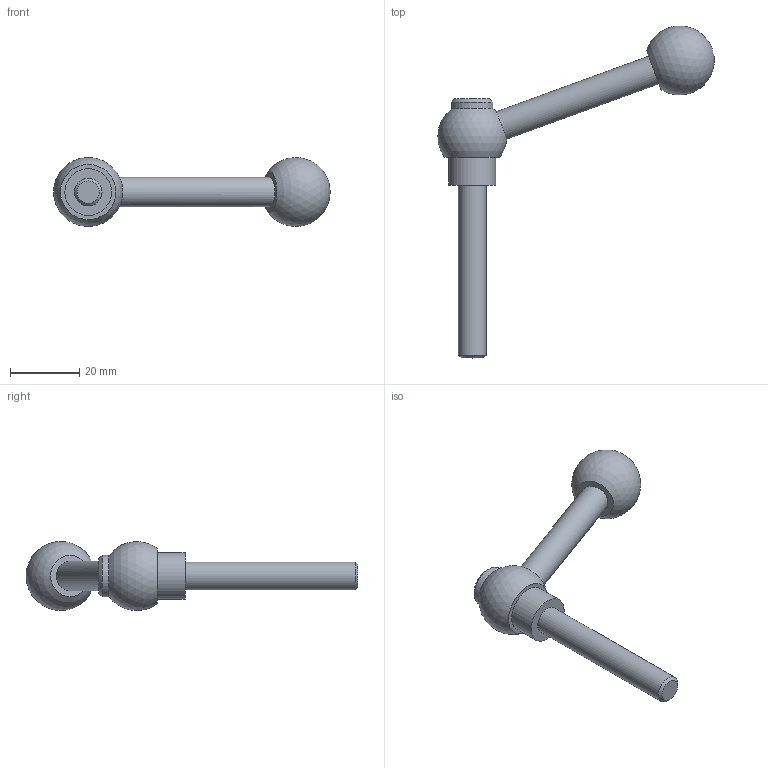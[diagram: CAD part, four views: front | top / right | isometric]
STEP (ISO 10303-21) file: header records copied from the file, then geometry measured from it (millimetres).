
FILE_DESCRIPTION( ( 'STEP AP203' ), '1' );
FILE_NAME( 'C:/Temp/Ganter_Step_05_03_2020/data/2_1/gn_6337_3/gn_6337_3_ms/gn_6337_3_ms_n/Adjustable clamping lever with bolt GN 6337.3-20-M8-50-N.stp', '2020-03-05T11:41:17', ( 'License CC BY-ND 4.0' ), ( 'CADENAS' ), ' ', 'PARTsolutions', ' ' );
FILE_SCHEMA( ( 'CONFIG_CONTROL_DESIGN' ) );
Length unit declared in the file: millimetre
Products named in the file (1): _Adjustable clamping lever with bolt GN 6337.3-20-M8-50-N
Bounding box: 79.86 x 95.99 x 19.98 mm (x, y, z)
Volume: 14311.8 mm3; surface area: 5246.3 mm2
Topology: 1 solids, 1 shells, 13 faces, 22 edges, 14 vertices
Faces by surface type: plane 5, cylinder 4, sphere 2, cone 2
Full cylindrical faces by diameter (mm): 8 x1, 8.5 x1, 12 x1, 13.5 x1
Entity records: 364 total; most frequent: CARTESIAN_POINT 104, DIRECTION 50, AXIS2_PLACEMENT_3D 25, EDGE_LOOP 24, ORIENTED_EDGE 24, FACE_OUTER_BOUND 18, ADVANCED_FACE 13, VERTEX_POINT 13
